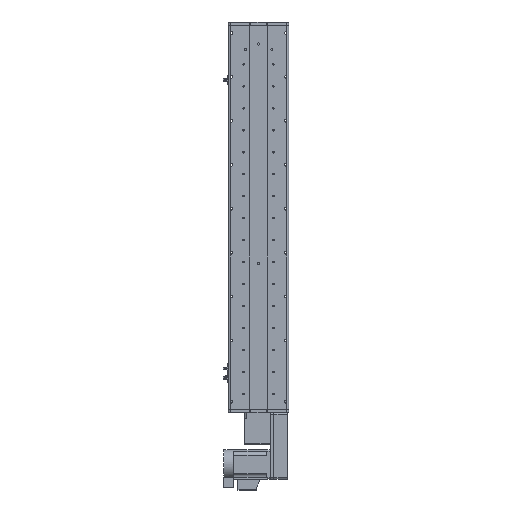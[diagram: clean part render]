
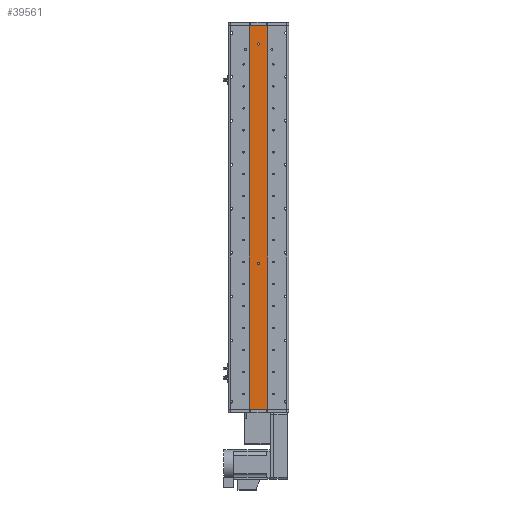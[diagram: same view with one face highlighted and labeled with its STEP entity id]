
A CAD part, front view. The second image highlights one B-rep face of the part: STEP entity #39561.
In plain terms, the highlighted planar face has unit normal (0, -1, 0).
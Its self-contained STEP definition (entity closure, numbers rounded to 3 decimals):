
#1002 = EDGE_LOOP ( 'NONE', ( #27123, #24305, #38036, #28896 ) ) ;
#1508 = CARTESIAN_POINT ( 'NONE',  ( 25., 1., -523.5 ) ) ;
#1883 = DIRECTION ( 'NONE',  ( 0., 0., 1. ) ) ;
#2874 = DIRECTION ( 'NONE',  ( 0., 0., -1. ) ) ;
#3325 = VERTEX_POINT ( 'NONE', #25392 ) ;
#3546 = VECTOR ( 'NONE', #7156, 1000. ) ;
#5076 = LINE ( 'NONE', #16838, #3546 ) ;
#5484 = CARTESIAN_POINT ( 'NONE',  ( 0., 1., 473.5 ) ) ;
#5543 = DIRECTION ( 'NONE',  ( 1., 0., 0. ) ) ;
#5574 = CARTESIAN_POINT ( 'NONE',  ( 0., 1., -123.5 ) ) ;
#7156 = DIRECTION ( 'NONE',  ( 1., 0., 0. ) ) ;
#7321 = CARTESIAN_POINT ( 'NONE',  ( -25., 1., 523.5 ) ) ;
#10416 = DIRECTION ( 'NONE',  ( 0., 0., -1. ) ) ;
#11549 = DIRECTION ( 'NONE',  ( 0., 1., 0. ) ) ;
#12922 = FACE_OUTER_BOUND ( 'NONE', #1002, .T. ) ;
#13106 = VERTEX_POINT ( 'NONE', #5574 ) ;
#16838 = CARTESIAN_POINT ( 'NONE',  ( 25., 1., 523.5 ) ) ;
#17514 = VECTOR ( 'NONE', #5543, 1000. ) ;
#18008 = ORIENTED_EDGE ( 'NONE', *, *, #18430, .F. ) ;
#18430 = EDGE_CURVE ( 'NONE', #46177, #59850, #25038, .T. ) ;
#18608 = CARTESIAN_POINT ( 'NONE',  ( 0., 1., 476.5 ) ) ;
#18914 = AXIS2_PLACEMENT_3D ( 'NONE', #28569, #63010, #33544 ) ;
#19237 = DIRECTION ( 'NONE',  ( 0., -1., 0. ) ) ;
#20418 = CIRCLE ( 'NONE', #42051, 3. ) ;
#20809 = VECTOR ( 'NONE', #56660, 1000. ) ;
#21669 = CARTESIAN_POINT ( 'NONE',  ( -25., 1., 523.5 ) ) ;
#23878 = CIRCLE ( 'NONE', #45103, 3. ) ;
#24305 = ORIENTED_EDGE ( 'NONE', *, *, #45687, .F. ) ;
#24818 = AXIS2_PLACEMENT_3D ( 'NONE', #31441, #11549, #1883 ) ;
#25038 = CIRCLE ( 'NONE', #34056, 3. ) ;
#25392 = CARTESIAN_POINT ( 'NONE',  ( 0., 1., -129.5 ) ) ;
#26449 = PLANE ( 'NONE',  #24818 ) ;
#27123 = ORIENTED_EDGE ( 'NONE', *, *, #45838, .T. ) ;
#28569 = CARTESIAN_POINT ( 'NONE',  ( 0., 1., 473.5 ) ) ;
#28896 = ORIENTED_EDGE ( 'NONE', *, *, #35283, .T. ) ;
#29763 = EDGE_CURVE ( 'NONE', #57214, #40181, #5076, .T. ) ;
#29928 = VECTOR ( 'NONE', #58562, 1000. ) ;
#30353 = CARTESIAN_POINT ( 'NONE',  ( 25., 1., -523.5 ) ) ;
#31441 = CARTESIAN_POINT ( 'NONE',  ( 25., 1., 523.5 ) ) ;
#32430 = DIRECTION ( 'NONE',  ( 0., -1., 0. ) ) ;
#33112 = CARTESIAN_POINT ( 'NONE',  ( 0., 1., 470.5 ) ) ;
#33411 = EDGE_CURVE ( 'NONE', #13106, #3325, #23878, .T. ) ;
#33544 = DIRECTION ( 'NONE',  ( 0., 0., -1. ) ) ;
#33746 = ORIENTED_EDGE ( 'NONE', *, *, #57483, .F. ) ;
#33960 = LINE ( 'NONE', #7321, #20809 ) ;
#34040 = CARTESIAN_POINT ( 'NONE',  ( 25., 1., 523.5 ) ) ;
#34056 = AXIS2_PLACEMENT_3D ( 'NONE', #5484, #39931, #10416 ) ;
#35009 = ORIENTED_EDGE ( 'NONE', *, *, #33411, .F. ) ;
#35283 = EDGE_CURVE ( 'NONE', #57214, #38415, #33960, .T. ) ;
#38036 = ORIENTED_EDGE ( 'NONE', *, *, #29763, .F. ) ;
#38415 = VERTEX_POINT ( 'NONE', #39135 ) ;
#39135 = CARTESIAN_POINT ( 'NONE',  ( -25., 1., -523.5 ) ) ;
#39136 = FACE_BOUND ( 'NONE', #53295, .T. ) ;
#39561 = ADVANCED_FACE ( 'NONE', ( #45327, #39136, #12922 ), #26449, .F. ) ;
#39931 = DIRECTION ( 'NONE',  ( 0., -1., 0. ) ) ;
#40181 = VERTEX_POINT ( 'NONE', #61915 ) ;
#42051 = AXIS2_PLACEMENT_3D ( 'NONE', #48751, #19237, #53704 ) ;
#42393 = VERTEX_POINT ( 'NONE', #1508 ) ;
#42989 = LINE ( 'NONE', #34040, #29928 ) ;
#45103 = AXIS2_PLACEMENT_3D ( 'NONE', #61892, #32430, #2874 ) ;
#45327 = FACE_BOUND ( 'NONE', #49693, .T. ) ;
#45687 = EDGE_CURVE ( 'NONE', #40181, #42393, #42989, .T. ) ;
#45838 = EDGE_CURVE ( 'NONE', #38415, #42393, #56868, .T. ) ;
#46177 = VERTEX_POINT ( 'NONE', #18608 ) ;
#48751 = CARTESIAN_POINT ( 'NONE',  ( 0., 1., -126.5 ) ) ;
#49693 = EDGE_LOOP ( 'NONE', ( #53566, #18008 ) ) ;
#53295 = EDGE_LOOP ( 'NONE', ( #33746, #35009 ) ) ;
#53566 = ORIENTED_EDGE ( 'NONE', *, *, #57450, .F. ) ;
#53704 = DIRECTION ( 'NONE',  ( 0., 0., -1. ) ) ;
#56660 = DIRECTION ( 'NONE',  ( 0., 0., -1. ) ) ;
#56868 = LINE ( 'NONE', #30353, #17514 ) ;
#57214 = VERTEX_POINT ( 'NONE', #21669 ) ;
#57450 = EDGE_CURVE ( 'NONE', #59850, #46177, #62849, .T. ) ;
#57483 = EDGE_CURVE ( 'NONE', #3325, #13106, #20418, .T. ) ;
#58562 = DIRECTION ( 'NONE',  ( 0., 0., -1. ) ) ;
#59850 = VERTEX_POINT ( 'NONE', #33112 ) ;
#61892 = CARTESIAN_POINT ( 'NONE',  ( 0., 1., -126.5 ) ) ;
#61915 = CARTESIAN_POINT ( 'NONE',  ( 25., 1., 523.5 ) ) ;
#62849 = CIRCLE ( 'NONE', #18914, 3. ) ;
#63010 = DIRECTION ( 'NONE',  ( 0., -1., 0. ) ) ;
